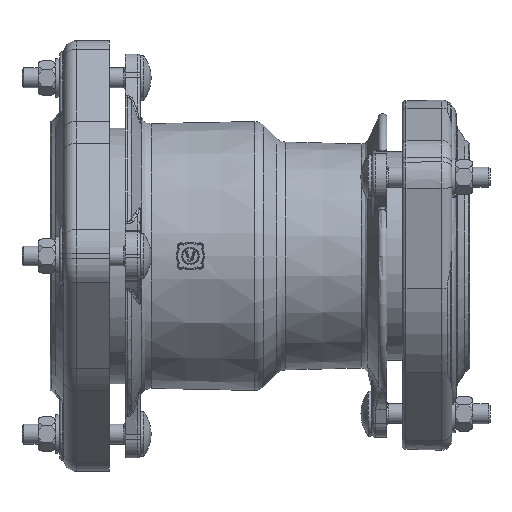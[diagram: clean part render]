
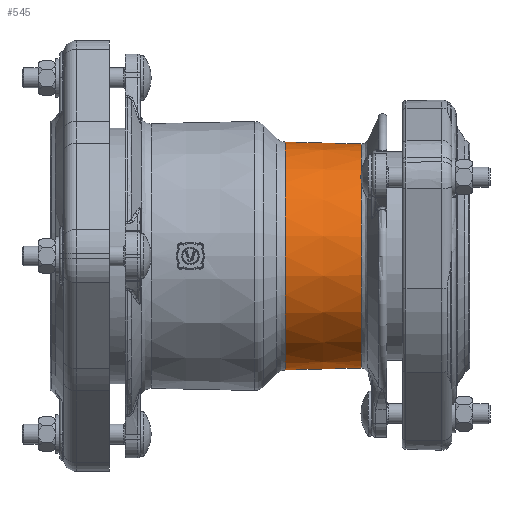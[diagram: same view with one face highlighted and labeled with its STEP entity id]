
A CAD part, front view. The second image highlights one B-rep face of the part: STEP entity #545.
In plain terms, the highlighted conical face has half-angle 1.478 degrees and reference radius 88.82 mm.
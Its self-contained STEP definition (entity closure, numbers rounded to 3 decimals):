
#514=CARTESIAN_POINT('',(-20.143,0.,88.05));
#515=VERTEX_POINT('',#514);
#516=CARTESIAN_POINT('',(-20.143,0.0,0.0));
#517=DIRECTION('',(1.0,0.0,0.0));
#518=DIRECTION('',(0.0,1.0,0.0));
#519=AXIS2_PLACEMENT_3D('',#516,#517,#518);
#520=CIRCLE('',#519,88.05);
#521=EDGE_CURVE('',#515,#515,#520,.T.);
#526=CARTESIAN_POINT('',(-49.997,0.0,0.0));
#527=DIRECTION('',(-1.0,0.0,0.0));
#528=DIRECTION('',(0.0,1.0,0.0));
#529=AXIS2_PLACEMENT_3D('',#526,#527,#528);
#530=CONICAL_SURFACE('',#529,88.821,1.478);
#531=CARTESIAN_POINT('',(-79.851,0.,89.591));
#532=VERTEX_POINT('',#531);
#533=CARTESIAN_POINT('',(-79.851,0.0,0.0));
#534=DIRECTION('',(1.0,0.0,0.0));
#535=DIRECTION('',(0.0,1.0,0.0));
#536=AXIS2_PLACEMENT_3D('',#533,#534,#535);
#537=CIRCLE('',#536,89.591);
#538=EDGE_CURVE('',#532,#532,#537,.T.);
#539=ORIENTED_EDGE('',*,*,#538,.T.);
#540=EDGE_LOOP('',(#539));
#541=FACE_OUTER_BOUND('',#540,.T.);
#542=ORIENTED_EDGE('',*,*,#521,.F.);
#543=EDGE_LOOP('',(#542));
#544=FACE_BOUND('',#543,.T.);
#545=ADVANCED_FACE('',(#541,#544),#530,.T.);
